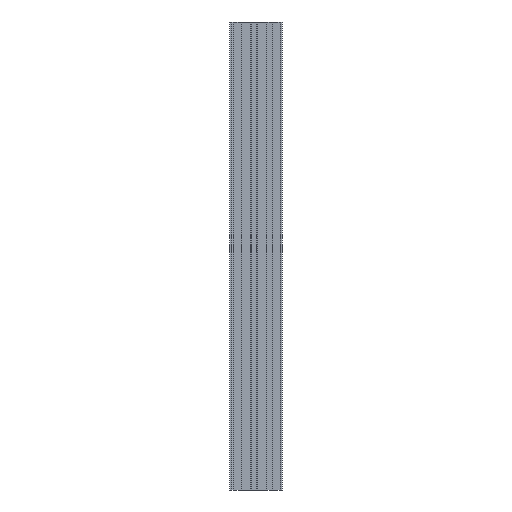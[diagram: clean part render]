
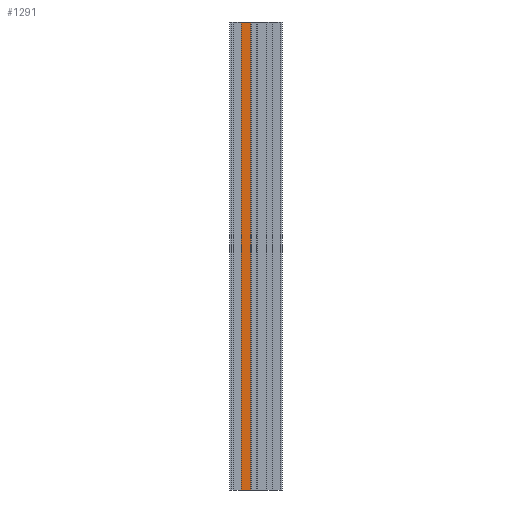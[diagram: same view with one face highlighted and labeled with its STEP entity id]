
A CAD part, front view. The second image highlights one B-rep face of the part: STEP entity #1291.
In plain terms, the highlighted planar face has unit normal (0, -1, 0).
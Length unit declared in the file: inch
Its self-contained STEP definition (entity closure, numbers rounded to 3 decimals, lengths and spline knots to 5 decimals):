
#18=PLANE('',#1412);
#61=FACE_OUTER_BOUND('',#129,.T.);
#129=EDGE_LOOP('',(#947,#948,#949,#950));
#232=LINE('',#2033,#374);
#237=LINE('',#2047,#379);
#238=LINE('',#2051,#380);
#239=LINE('',#2052,#381);
#374=VECTOR('',#1604,0.3937);
#379=VECTOR('',#1619,0.3937);
#380=VECTOR('',#1624,0.3937);
#381=VECTOR('',#1625,0.3937);
#598=VERTEX_POINT('',#2030);
#599=VERTEX_POINT('',#2032);
#603=VERTEX_POINT('',#2046);
#604=VERTEX_POINT('',#2050);
#732=EDGE_CURVE('',#599,#598,#232,.T.);
#739=EDGE_CURVE('',#599,#603,#237,.T.);
#741=EDGE_CURVE('',#604,#598,#238,.T.);
#742=EDGE_CURVE('',#603,#604,#239,.T.);
#947=ORIENTED_EDGE('',*,*,#739,.F.);
#948=ORIENTED_EDGE('',*,*,#732,.T.);
#949=ORIENTED_EDGE('',*,*,#741,.F.);
#950=ORIENTED_EDGE('',*,*,#742,.F.);
#1291=ADVANCED_FACE('',(#61),#18,.T.);
#1412=AXIS2_PLACEMENT_3D('',#2049,#1622,#1623);
#1604=DIRECTION('',(1.,0.,0.));
#1619=DIRECTION('',(0.,0.,1.));
#1622=DIRECTION('center_axis',(0.,-1.,0.));
#1623=DIRECTION('ref_axis',(1.,0.,0.));
#1624=DIRECTION('',(0.,0.,-1.));
#1625=DIRECTION('',(1.,0.,0.));
#2030=CARTESIAN_POINT('',(-7.99734,0.98,0.));
#2032=CARTESIAN_POINT('',(-10.91734,0.98,0.));
#2033=CARTESIAN_POINT('',(-10.93734,0.98,0.));
#2046=CARTESIAN_POINT('',(-10.91734,0.98,144.));
#2047=CARTESIAN_POINT('',(-10.91734,0.98,0.));
#2049=CARTESIAN_POINT('Origin',(-10.93734,0.98,0.));
#2050=CARTESIAN_POINT('',(-7.99734,0.98,144.));
#2051=CARTESIAN_POINT('',(-7.99734,0.98,0.));
#2052=CARTESIAN_POINT('',(-10.93734,0.98,144.));
